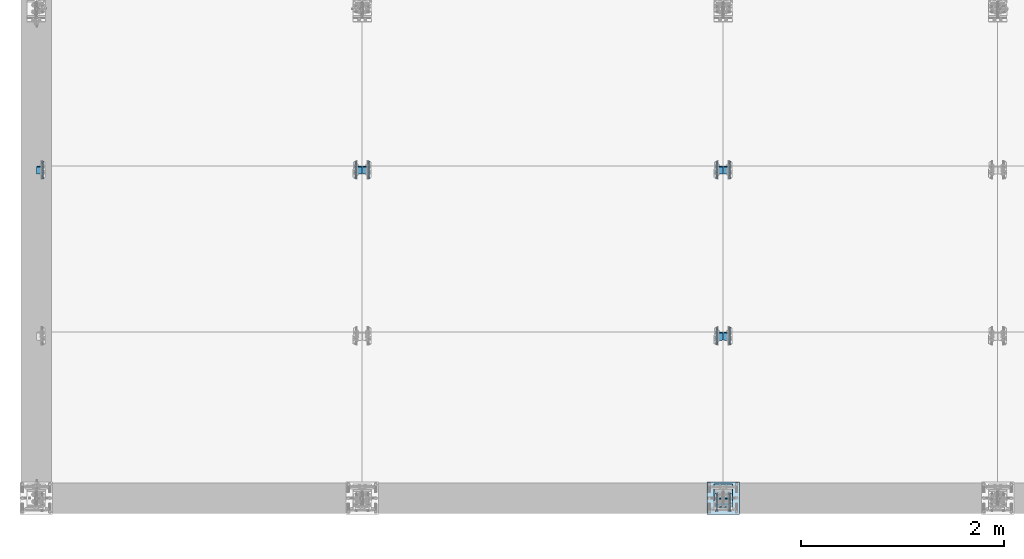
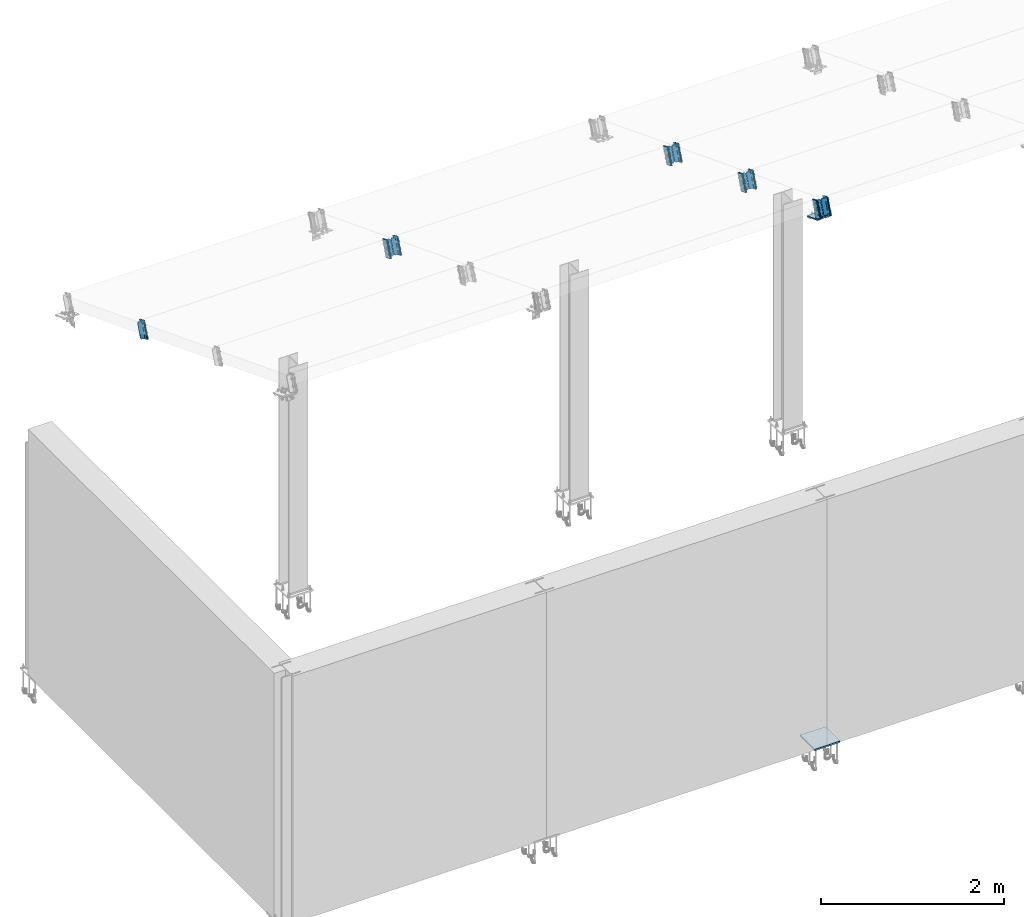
# One storey, part 3 of 72: 29 plates.
"""IFC4 building model written with IfcOpenShell, lengths in metres."""

from ifc_helpers import new_model, si_unit, frame, origin_with_axes, place, context, project, spatial, polyline, outline, extrude, type_object, element, save


model = new_model("IFC4")

# Units and contexts
model_context = context("Model", 3, precision=1e-05, world=origin_with_axes())
ifc_project = project(units=[si_unit("LENGTHUNIT", "METRE"), si_unit("AREAUNIT", "SQUARE_METRE"), si_unit("VOLUMEUNIT", "CUBIC_METRE"), si_unit("MASSUNIT", "GRAM", prefix="KILO"), si_unit("TIMEUNIT", "SECOND"), si_unit("PLANEANGLEUNIT", "RADIAN"), si_unit("SOLIDANGLEUNIT", "STERADIAN"), si_unit("THERMODYNAMICTEMPERATUREUNIT", "DEGREE_CELSIUS")], contexts=[model_context])

# Site, building, storey
placement_1 = place(None, origin_with_axes())
site = spatial("IfcSite", under=ifc_project, at=placement_1, Name="Italia", CompositionType="ELEMENT")
building = spatial("IfcBuilding", under=site, at=placement_1, Name="Uffici", CompositionType="ELEMENT")
storey = spatial("IfcBuildingStorey", under=building, at=placement_1, Name="Storey 0", CompositionType="ELEMENT", Elevation=0.0)

# Plates
plate_type_1 = type_object("IfcPlateType", Name="Collegamento -016_-017", PredefinedType="SHEET")
placement_2 = place(placement_1, origin_with_axes())
plate_1_placement = place(placement_2, origin_with_axes())
element("IfcPlate", 1, at=plate_1_placement, inside=storey, type_object=plate_type_1, Name="Collegamento -016_-017", context=model_context, shape_type="SweptSolid", body=[
    extrude(outline(polyline([(0.0, 0.0), (-0.0932386, -0.0361462), (-0.172783, 0.169037), (-0.0795441, 0.205184), (0.0, 0.0)])), frame((0.065, 3.14053, 5.78628), z_axis=(-1.0, 0.0, 0.0), x_axis=(0.0, -1.0, 0.0)), (0.0, 0.0, 1.0), 0.01),
])
plate_type_2 = type_object("IfcPlateType", Name="Collegamento -016_-017", PredefinedType="SHEET")
plate_2_placement = place(placement_2, origin_with_axes())
element("IfcPlate", 2, at=plate_2_placement, inside=storey, type_object=plate_type_2, Name="Collegamento -016_-017", context=model_context, shape_type="SweptSolid", body=[
    extrude(outline(polyline([(0.0, 0.0), (-0.0932386, -0.0361462), (-0.17276, 0.168979), (-0.0795217, 0.205125), (0.0, 0.0)])), frame((0.075, 3.14053, 5.78628), z_axis=(-1.0, 0.0, 0.0), x_axis=(0.0, -1.0, 0.0)), (0.0, 0.0, 1.0), 0.01),
])
plate_type_3 = type_object("IfcPlateType", Name="Collegamento -016_-017", PredefinedType="SHEET")
plate_3_placement = place(placement_2, origin_with_axes())
element("IfcPlate", 3, at=plate_3_placement, inside=storey, type_object=plate_type_3, Name="Collegamento -016_-017", context=model_context, shape_type="SweptSolid", body=[
    extrude(outline(polyline([(0.0, 0.0), (0.04005, 0.0), (0.05205, 0.0120001), (0.05205, 0.1896), (0.04005, 0.201601), (0.0, 0.201601), (0.0, 0.0)])), frame((0.055, 3.18583, 5.77865), z_axis=(0.0, 0.932392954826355, -0.3614462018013), x_axis=(-1.0, 0.0, 0.0)), (0.0, 0.0, 1.0), 0.0099999),
])
plate_type_4 = type_object("IfcPlateType", Name="Collegamento -017_-016", PredefinedType="SHEET")
plate_4_placement = place(placement_2, origin_with_axes())
element("IfcPlate", 4, at=plate_4_placement, inside=storey, type_object=plate_type_4, Name="Collegamento -017_-016", context=model_context, shape_type="SweptSolid", body=[
    extrude(outline(polyline([(0.0, 0.0), (-0.0932386, 0.0361462), (-0.0136945, 0.24133), (0.0795441, 0.205184), (0.0, 0.0)])), frame((3.14, 3.23376, 5.75013), z_axis=(1.0, 0.0, 0.0), x_axis=(0.0, 1.0, 0.0)), (0.0, 0.0, 1.0), 0.00999999),
])
plate_type_5 = type_object("IfcPlateType", Name="Collegamento -017_-016", PredefinedType="SHEET")
plate_5_placement = place(placement_2, origin_with_axes())
element("IfcPlate", 5, at=plate_5_placement, inside=storey, type_object=plate_type_5, Name="Collegamento -017_-016", context=model_context, shape_type="SweptSolid", body=[
    extrude(outline(polyline([(0.0, 0.0), (-0.0932386, 0.0361462), (-0.0137169, 0.241271), (0.0795217, 0.205125), (0.0, 0.0)])), frame((3.13, 3.23376, 5.75013), z_axis=(1.0, 0.0, 0.0), x_axis=(0.0, 1.0, 0.0)), (0.0, 0.0, 1.0), 0.00999999),
])
plate_type_6 = type_object("IfcPlateType", Name="Collegamento -017_-016", PredefinedType="SHEET")
plate_6_placement = place(placement_2, origin_with_axes())
element("IfcPlate", 6, at=plate_6_placement, inside=storey, type_object=plate_type_6, Name="Collegamento -017_-016", context=model_context, shape_type="SweptSolid", body=[
    extrude(outline(polyline([(0.0, 0.0), (0.04005, 0.0), (0.0520501, 0.0120001), (0.0520501, 0.1896), (0.04005, 0.2016), (0.0, 0.2016), (0.0, 0.0)])), frame((3.15, 3.19515, 5.77504), z_axis=(0.0, -0.932392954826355, 0.3614462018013), x_axis=(1.0, 0.0, 0.0)), (0.0, 0.0, 1.0), 0.0099999),
])
plate_type_7 = type_object("IfcPlateType", Name="Collegamento -017_-018", PredefinedType="SHEET")
plate_7_placement = place(placement_2, origin_with_axes())
element("IfcPlate", 7, at=plate_7_placement, inside=storey, type_object=plate_type_7, Name="Collegamento -017_-018", context=model_context, shape_type="SweptSolid", body=[
    extrude(outline(polyline([(0.0, 0.0), (-0.0932386, -0.0361462), (-0.172783, 0.169037), (-0.0795441, 0.205184), (0.0, 0.0)])), frame((3.27, 3.14053, 5.78628), z_axis=(-1.0, 0.0, 0.0), x_axis=(0.0, -1.0, 0.0)), (0.0, 0.0, 1.0), 0.00999999),
])
plate_type_8 = type_object("IfcPlateType", Name="Collegamento -017_-018", PredefinedType="SHEET")
plate_8_placement = place(placement_2, origin_with_axes())
element("IfcPlate", 8, at=plate_8_placement, inside=storey, type_object=plate_type_8, Name="Collegamento -017_-018", context=model_context, shape_type="SweptSolid", body=[
    extrude(outline(polyline([(0.0, 0.0), (-0.0932386, -0.0361462), (-0.17276, 0.168979), (-0.0795217, 0.205125), (0.0, 0.0)])), frame((3.28, 3.14053, 5.78628), z_axis=(-1.0, 0.0, 0.0), x_axis=(0.0, -1.0, 0.0)), (0.0, 0.0, 1.0), 0.00999999),
])
plate_type_9 = type_object("IfcPlateType", Name="Collegamento -017_-018", PredefinedType="SHEET")
plate_9_placement = place(placement_2, origin_with_axes())
element("IfcPlate", 9, at=plate_9_placement, inside=storey, type_object=plate_type_9, Name="Collegamento -017_-018", context=model_context, shape_type="SweptSolid", body=[
    extrude(outline(polyline([(0.0, 0.0), (0.04005, 0.0), (0.0520501, 0.0120001), (0.0520501, 0.1896), (0.04005, 0.201601), (0.0, 0.201601), (0.0, 0.0)])), frame((3.26, 3.18583, 5.77865), z_axis=(0.0, 0.932392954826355, -0.3614462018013), x_axis=(-1.0, 0.0, 0.0)), (0.0, 0.0, 1.0), 0.0099999),
])
plate_type_10 = type_object("IfcPlateType", Name="Collegamento -018_-017", PredefinedType="SHEET")
plate_10_placement = place(placement_2, origin_with_axes())
element("IfcPlate", 10, at=plate_10_placement, inside=storey, type_object=plate_type_10, Name="Collegamento -018_-017", context=model_context, shape_type="SweptSolid", body=[
    extrude(outline(polyline([(0.0, 0.0), (-0.0932386, 0.0361462), (-0.0136945, 0.24133), (0.0795441, 0.205184), (0.0, 0.0)])), frame((6.69, 3.23376, 5.75013), z_axis=(1.0, 0.0, 0.0), x_axis=(0.0, 1.0, 0.0)), (0.0, 0.0, 1.0), 0.0100002),
])
plate_type_11 = type_object("IfcPlateType", Name="Collegamento -018_-017", PredefinedType="SHEET")
plate_11_placement = place(placement_2, origin_with_axes())
element("IfcPlate", 11, at=plate_11_placement, inside=storey, type_object=plate_type_11, Name="Collegamento -018_-017", context=model_context, shape_type="SweptSolid", body=[
    extrude(outline(polyline([(0.0, 0.0), (-0.0932386, 0.0361462), (-0.0137169, 0.241271), (0.0795217, 0.205125), (0.0, 0.0)])), frame((6.68, 3.23376, 5.75013), z_axis=(1.0, 0.0, 0.0), x_axis=(0.0, 1.0, 0.0)), (0.0, 0.0, 1.0), 0.00999975),
])
plate_type_12 = type_object("IfcPlateType", Name="Collegamento -018_-017", PredefinedType="SHEET")
plate_12_placement = place(placement_2, origin_with_axes())
element("IfcPlate", 12, at=plate_12_placement, inside=storey, type_object=plate_type_12, Name="Collegamento -018_-017", context=model_context, shape_type="SweptSolid", body=[
    extrude(outline(polyline([(0.0, 0.0), (0.04005, 0.0), (0.0520501, 0.0120001), (0.0520501, 0.1896), (0.04005, 0.2016), (0.0, 0.2016), (0.0, 0.0)])), frame((6.7, 3.19515, 5.77504), z_axis=(0.0, -0.932392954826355, 0.3614462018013), x_axis=(1.0, 0.0, 0.0)), (0.0, 0.0, 1.0), 0.0099999),
])
plate_type_13 = type_object("IfcPlateType", Name="Collegamento -018_-019", PredefinedType="SHEET")
plate_13_placement = place(placement_2, origin_with_axes())
element("IfcPlate", 13, at=plate_13_placement, inside=storey, type_object=plate_type_13, Name="Collegamento -018_-019", context=model_context, shape_type="SweptSolid", body=[
    extrude(outline(polyline([(0.0, 0.0), (-0.0932386, -0.0361462), (-0.172783, 0.169037), (-0.0795441, 0.205184), (0.0, 0.0)])), frame((6.82, 3.14053, 5.78628), z_axis=(-1.0, 0.0, 0.0), x_axis=(0.0, -1.0, 0.0)), (0.0, 0.0, 1.0), 0.0100002),
])
plate_type_14 = type_object("IfcPlateType", Name="Collegamento -018_-019", PredefinedType="SHEET")
plate_14_placement = place(placement_2, origin_with_axes())
element("IfcPlate", 14, at=plate_14_placement, inside=storey, type_object=plate_type_14, Name="Collegamento -018_-019", context=model_context, shape_type="SweptSolid", body=[
    extrude(outline(polyline([(0.0, 0.0), (-0.0932386, -0.0361462), (-0.17276, 0.168979), (-0.0795217, 0.205125), (0.0, 0.0)])), frame((6.83, 3.14053, 5.78628), z_axis=(-1.0, 0.0, 0.0), x_axis=(0.0, -1.0, 0.0)), (0.0, 0.0, 1.0), 0.00999975),
])
plate_type_15 = type_object("IfcPlateType", Name="Collegamento -018_-019", PredefinedType="SHEET")
plate_15_placement = place(placement_2, origin_with_axes())
element("IfcPlate", 15, at=plate_15_placement, inside=storey, type_object=plate_type_15, Name="Collegamento -018_-019", context=model_context, shape_type="SweptSolid", body=[
    extrude(outline(polyline([(0.0, 0.0), (0.04005, 0.0), (0.0520501, 0.0120001), (0.0520501, 0.1896), (0.04005, 0.201601), (0.0, 0.201601), (0.0, 0.0)])), frame((6.81, 3.18583, 5.77865), z_axis=(0.0, 0.932392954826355, -0.3614462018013), x_axis=(-1.0, 0.0, 0.0)), (0.0, 0.0, 1.0), 0.0099999),
])
plate_type_16 = type_object("IfcPlateType", Name="Collegamento -028_-027", PredefinedType="SHEET")
plate_16_placement = place(placement_2, origin_with_axes())
element("IfcPlate", 16, at=plate_16_placement, inside=storey, type_object=plate_type_16, Name="Collegamento -028_-027", context=model_context, shape_type="SweptSolid", body=[
    extrude(outline(polyline([(0.0, 0.0), (-0.0932387, 0.0361462), (-0.0137168, 0.241272), (0.0795219, 0.205126), (0.0, 0.0)])), frame((6.69, 1.60043, 6.38347), z_axis=(1.0, 0.0, 0.0), x_axis=(0.0, 1.0, 0.0)), (0.0, 0.0, 1.0), 0.0100002),
])
plate_type_17 = type_object("IfcPlateType", Name="Collegamento -028_-027", PredefinedType="SHEET")
plate_17_placement = place(placement_2, origin_with_axes())
element("IfcPlate", 17, at=plate_17_placement, inside=storey, type_object=plate_type_17, Name="Collegamento -028_-027", context=model_context, shape_type="SweptSolid", body=[
    extrude(outline(polyline([(0.0, 0.0), (-0.0932387, 0.0361462), (-0.0137168, 0.241272), (0.0795219, 0.205126), (0.0, 0.0)])), frame((6.68, 1.60043, 6.38347), z_axis=(1.0, 0.0, 0.0), x_axis=(0.0, 1.0, 0.0)), (0.0, 0.0, 1.0), 0.00999975),
])
plate_type_18 = type_object("IfcPlateType", Name="Collegamento -028_-027", PredefinedType="SHEET")
plate_18_placement = place(placement_2, origin_with_axes())
element("IfcPlate", 18, at=plate_18_placement, inside=storey, type_object=plate_type_18, Name="Collegamento -028_-027", context=model_context, shape_type="SweptSolid", body=[
    extrude(outline(polyline([(0.0, 0.0), (0.04005, 0.0), (0.0520501, 0.0120001), (0.0520501, 0.1896), (0.04005, 0.2016), (0.0, 0.2016), (0.0, 0.0)])), frame((6.7, 1.5618, 6.40831), z_axis=(0.0, -0.93237692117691, 0.361487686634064), x_axis=(1.0, 0.0, 0.0)), (0.0, 0.0, 1.0), 0.0100001),
])
plate_type_19 = type_object("IfcPlateType", Name="Collegamento -028_-029", PredefinedType="SHEET")
plate_19_placement = place(placement_2, origin_with_axes())
element("IfcPlate", 19, at=plate_19_placement, inside=storey, type_object=plate_type_19, Name="Collegamento -028_-029", context=model_context, shape_type="SweptSolid", body=[
    extrude(outline(polyline([(0.0, 0.0), (-0.0932387, -0.0361462), (-0.172761, 0.16898), (-0.0795219, 0.205126), (0.0, 0.0)])), frame((6.82, 1.50719, 6.41961), z_axis=(-1.0, 0.0, 0.0), x_axis=(0.0, -1.0, 0.0)), (0.0, 0.0, 1.0), 0.0100002),
])
plate_type_20 = type_object("IfcPlateType", Name="Collegamento -028_-029", PredefinedType="SHEET")
plate_20_placement = place(placement_2, origin_with_axes())
element("IfcPlate", 20, at=plate_20_placement, inside=storey, type_object=plate_type_20, Name="Collegamento -028_-029", context=model_context, shape_type="SweptSolid", body=[
    extrude(outline(polyline([(0.0, 0.0), (-0.0932387, -0.0361462), (-0.172761, 0.16898), (-0.0795219, 0.205126), (0.0, 0.0)])), frame((6.83, 1.50719, 6.41961), z_axis=(-1.0, 0.0, 0.0), x_axis=(0.0, -1.0, 0.0)), (0.0, 0.0, 1.0), 0.00999975),
])
plate_type_21 = type_object("IfcPlateType", Name="Collegamento -028_-029", PredefinedType="SHEET")
plate_21_placement = place(placement_2, origin_with_axes())
element("IfcPlate", 21, at=plate_21_placement, inside=storey, type_object=plate_type_21, Name="Collegamento -028_-029", context=model_context, shape_type="SweptSolid", body=[
    extrude(outline(polyline([(0.0, 0.0), (0.04005, 0.0), (0.0520501, 0.0119996), (0.0520501, 0.1896), (0.04005, 0.2016), (0.0, 0.2016), (0.0, 0.0)])), frame((6.81, 1.55248, 6.41193), z_axis=(0.0, 0.93237692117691, -0.361487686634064), x_axis=(-1.0, 0.0, 0.0)), (0.0, 0.0, 1.0), 0.0100001),
])
plate_type_22 = type_object("IfcPlateType", Name="Collegamenti 0001_0101 0002_0102 0003_0103 0004_0104 0005_0105 0011_0111 0012_0112 0013_0113 0014_0114 0015_0115", PredefinedType="SHEET")
plate_22_placement = place(placement_2, origin_with_axes())
element("IfcPlate", 22, at=plate_22_placement, inside=storey, type_object=plate_type_22, Name="Collegamenti 0001_0101 0002_0102 0003_0103 0004_0104 0005_0105 0011_0111 0012_0112 0013_0113 0014_0114 0015_0115", context=model_context, shape_type="SweptSolid", body=[
    extrude(outline(polyline([(0.0, 0.0), (0.0, 0.32), (0.32, 0.32), (0.32, 0.0), (0.0, 0.0)])), frame((6.595, -0.16, 0.02), z_axis=(0.0, 0.0, -1.0), x_axis=(0.0, 1.0, 0.0)), (0.0, 0.0, 1.0), 0.02),
])
plate_type_23 = type_object("IfcPlateType", Name="Collegamento 0203_0103", PredefinedType="SHEET")
plate_23_placement = place(placement_2, origin_with_axes())
element("IfcPlate", 23, at=plate_23_placement, inside=storey, type_object=plate_type_23, Name="Collegamento 0203_0103", context=model_context, shape_type="SweptSolid", body=[
    extrude(outline(polyline([(0.0, 0.0), (0.18, 0.0), (0.18, -0.23341), (0.0, -0.23341), (0.0, 0.0)])), frame((6.845, -0.0855034, 7.02111), z_axis=(0.0, 0.361523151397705, 0.932363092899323), x_axis=(-1.0, 0.0, 0.0)), (0.0, 0.0, 1.0), 0.0150002),
])
plate_type_24 = type_object("IfcPlateType", Name="Collegamento 0203_0202", PredefinedType="SHEET")
plate_24_placement = place(placement_2, origin_with_axes())
element("IfcPlate", 24, at=plate_24_placement, inside=storey, type_object=plate_type_24, Name="Collegamento 0203_0202", context=model_context, shape_type="SweptSolid", body=[
    extrude(outline(polyline([(0.0, 0.0), (-0.0932387, 0.0361462), (-0.0137157, 0.241275), (0.079523, 0.205129), (0.0, 0.0)])), frame((6.69, -0.0329024, 7.0168), z_axis=(1.0, 0.0, 0.0), x_axis=(0.0, 1.0, 0.0)), (0.0, 0.0, 1.0), 0.0100002),
])
plate_type_25 = type_object("IfcPlateType", Name="Collegamento 0203_0202", PredefinedType="SHEET")
plate_25_placement = place(placement_2, origin_with_axes())
element("IfcPlate", 25, at=plate_25_placement, inside=storey, type_object=plate_type_25, Name="Collegamento 0203_0202", context=model_context, shape_type="SweptSolid", body=[
    extrude(outline(polyline([(0.0, 0.0), (-0.0932387, 0.0361462), (-0.013717, 0.241272), (0.0795217, 0.205126), (0.0, 0.0)])), frame((6.68, -0.0329024, 7.0168), z_axis=(1.0, 0.0, 0.0), x_axis=(0.0, 1.0, 0.0)), (0.0, 0.0, 1.0), 0.00999975),
])
plate_type_26 = type_object("IfcPlateType", Name="Collegamento 0203_0202", PredefinedType="SHEET")
plate_26_placement = place(placement_2, origin_with_axes())
element("IfcPlate", 26, at=plate_26_placement, inside=storey, type_object=plate_type_26, Name="Collegamento 0203_0202", context=model_context, shape_type="SweptSolid", body=[
    extrude(outline(polyline([(0.0, 0.0), (0.04005, 0.0), (0.0520501, 0.0119996), (0.0520501, 0.1896), (0.04005, 0.201601), (0.0, 0.201601), (0.0, 0.0)])), frame((6.7, -0.0715331, 7.04165), z_axis=(0.0, -0.932393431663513, 0.36144495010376), x_axis=(1.0, 0.0, 0.0)), (0.0, 0.0, 1.0), 0.00999993),
])
plate_type_27 = type_object("IfcPlateType", Name="Collegamento 0203_0204", PredefinedType="SHEET")
plate_27_placement = place(placement_2, origin_with_axes())
element("IfcPlate", 27, at=plate_27_placement, inside=storey, type_object=plate_type_27, Name="Collegamento 0203_0204", context=model_context, shape_type="SweptSolid", body=[
    extrude(outline(polyline([(0.0, 0.0), (-0.0932387, -0.0361462), (-0.172762, 0.168983), (-0.0795231, 0.205129), (0.0, 0.0)])), frame((6.82, -0.126141, 7.05295), z_axis=(-1.0, 0.0, 0.0), x_axis=(0.0, -1.0, 0.0)), (0.0, 0.0, 1.0), 0.0100002),
])
plate_type_28 = type_object("IfcPlateType", Name="Collegamento 0203_0204", PredefinedType="SHEET")
plate_28_placement = place(placement_2, origin_with_axes())
element("IfcPlate", 28, at=plate_28_placement, inside=storey, type_object=plate_type_28, Name="Collegamento 0203_0204", context=model_context, shape_type="SweptSolid", body=[
    extrude(outline(polyline([(0.0, 0.0), (-0.0932387, -0.0361462), (-0.17276, 0.16898), (-0.0795217, 0.205126), (0.0, 0.0)])), frame((6.83, -0.126141, 7.05295), z_axis=(-1.0, 0.0, 0.0), x_axis=(0.0, -1.0, 0.0)), (0.0, 0.0, 1.0), 0.00999975),
])
plate_type_29 = type_object("IfcPlateType", Name="Collegamento 0203_0204", PredefinedType="SHEET")
plate_29_placement = place(placement_2, origin_with_axes())
element("IfcPlate", 29, at=plate_29_placement, inside=storey, type_object=plate_type_29, Name="Collegamento 0203_0204", context=model_context, shape_type="SweptSolid", body=[
    extrude(outline(polyline([(0.0, 0.0), (0.04005, 0.0), (0.0520501, 0.0120006), (0.0520501, 0.189601), (0.04005, 0.201601), (0.0, 0.201601), (0.0, 0.0)])), frame((6.81, -0.080857, 7.04526), z_axis=(0.0, 0.932393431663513, -0.36144495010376), x_axis=(-1.0, 0.0, 0.0)), (0.0, 0.0, 1.0), 0.00999993),
])

save(model, "model.ifc")
